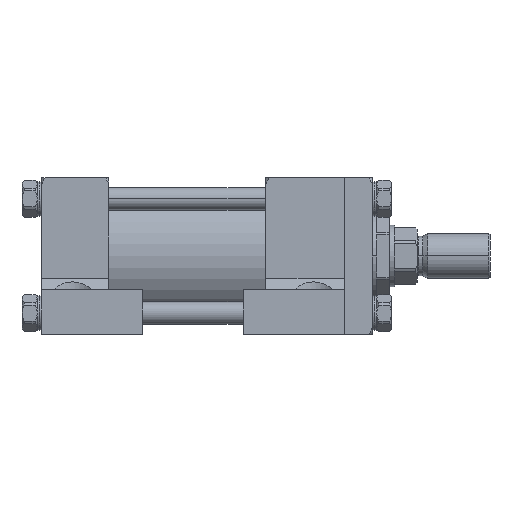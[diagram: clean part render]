
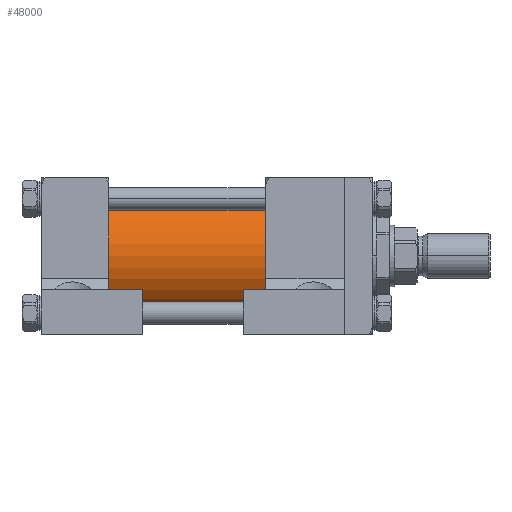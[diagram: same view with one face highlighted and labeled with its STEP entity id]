
A CAD part, front view. The second image highlights one B-rep face of the part: STEP entity #48000.
In plain terms, the highlighted cylindrical face has radius 38.1 mm (diameter 76.2 mm), a partial arc.
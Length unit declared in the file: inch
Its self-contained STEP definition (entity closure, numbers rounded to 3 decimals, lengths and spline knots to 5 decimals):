
#496 = ORIENTED_EDGE ( 'NONE', *, *, #18433, .T. ) ;
#3409 = VECTOR ( 'NONE', #32021, 39.37008 ) ;
#3648 = EDGE_CURVE ( 'NONE', #35577, #57326, #52282, .T. ) ;
#3990 = ORIENTED_EDGE ( 'NONE', *, *, #11641, .F. ) ;
#4645 = CIRCLE ( 'NONE', #54225, 1.5 ) ;
#7817 = CARTESIAN_POINT ( 'NONE',  ( -7.125, 0., 0. ) ) ;
#11641 = EDGE_CURVE ( 'NONE', #44961, #57326, #4645, .T. ) ;
#12684 = CARTESIAN_POINT ( 'NONE',  ( -7.125, 0., 1.5 ) ) ;
#16360 = CARTESIAN_POINT ( 'NONE',  ( -7.125, 0., 0. ) ) ;
#17065 = AXIS2_PLACEMENT_3D ( 'NONE', #16360, #26174, #56017 ) ;
#17663 = CARTESIAN_POINT ( 'NONE',  ( -7.125, 0., 1.5 ) ) ;
#18433 = EDGE_CURVE ( 'NONE', #35725, #35577, #22102, .T. ) ;
#22045 = CYLINDRICAL_SURFACE ( 'NONE', #59065, 1.5 ) ;
#22102 = CIRCLE ( 'NONE', #17065, 1.5 ) ;
#22695 = LINE ( 'NONE', #17663, #60614 ) ;
#24686 = CARTESIAN_POINT ( 'NONE',  ( -3.125, 0., -1.5 ) ) ;
#26174 = DIRECTION ( 'NONE',  ( 1., 0., 0. ) ) ;
#26706 = EDGE_LOOP ( 'NONE', ( #53899, #496, #45693, #3990 ) ) ;
#30649 = DIRECTION ( 'NONE',  ( 0., 1., 0. ) ) ;
#30950 = DIRECTION ( 'NONE',  ( 1., 0., 0. ) ) ;
#32021 = DIRECTION ( 'NONE',  ( 1., 0., 0. ) ) ;
#35577 = VERTEX_POINT ( 'NONE', #42666 ) ;
#35725 = VERTEX_POINT ( 'NONE', #12684 ) ;
#40311 = EDGE_CURVE ( 'NONE', #35725, #44961, #22695, .T. ) ;
#42105 = DIRECTION ( 'NONE',  ( 1., 0., 0. ) ) ;
#42666 = CARTESIAN_POINT ( 'NONE',  ( -7.125, 0., -1.5 ) ) ;
#44961 = VERTEX_POINT ( 'NONE', #55982 ) ;
#45693 = ORIENTED_EDGE ( 'NONE', *, *, #3648, .T. ) ;
#46193 = CARTESIAN_POINT ( 'NONE',  ( -3.125, 0., 0. ) ) ;
#46537 = DIRECTION ( 'NONE',  ( 0., 0., -1. ) ) ;
#47223 = CARTESIAN_POINT ( 'NONE',  ( -7.125, 0., -1.5 ) ) ;
#48000 = ADVANCED_FACE ( 'NONE', ( #58940 ), #22045, .T. ) ;
#51572 = DIRECTION ( 'NONE',  ( 1., 0., 0. ) ) ;
#52282 = LINE ( 'NONE', #47223, #3409 ) ;
#53899 = ORIENTED_EDGE ( 'NONE', *, *, #40311, .F. ) ;
#54225 = AXIS2_PLACEMENT_3D ( 'NONE', #46193, #30950, #30649 ) ;
#55982 = CARTESIAN_POINT ( 'NONE',  ( -3.125, 0., 1.5 ) ) ;
#56017 = DIRECTION ( 'NONE',  ( 0., 1., 0. ) ) ;
#57326 = VERTEX_POINT ( 'NONE', #24686 ) ;
#58940 = FACE_OUTER_BOUND ( 'NONE', #26706, .T. ) ;
#59065 = AXIS2_PLACEMENT_3D ( 'NONE', #7817, #51572, #46537 ) ;
#60614 = VECTOR ( 'NONE', #42105, 39.37008 ) ;
